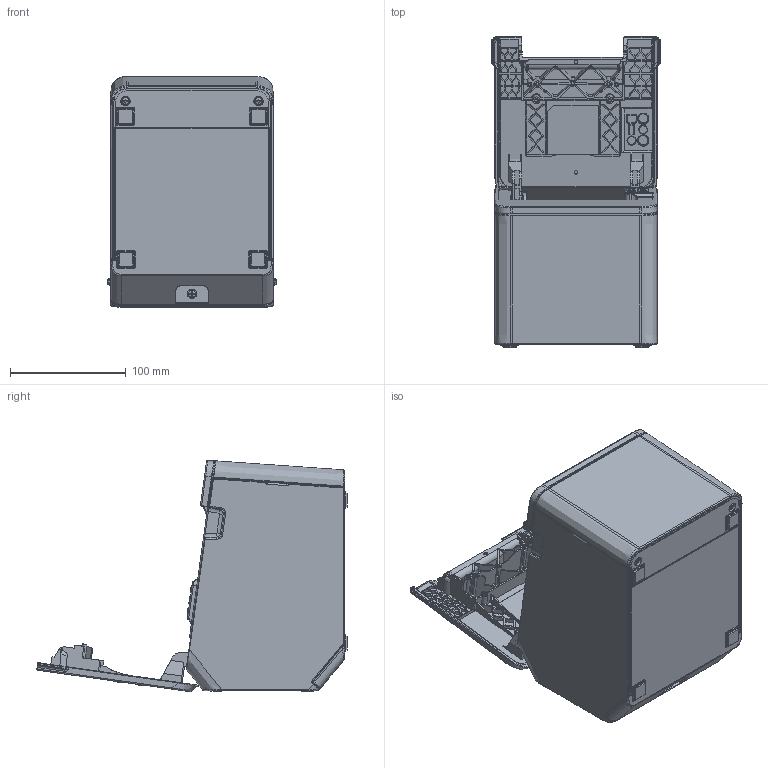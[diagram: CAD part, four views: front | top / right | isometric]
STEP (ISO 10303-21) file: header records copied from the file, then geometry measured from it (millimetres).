
FILE_DESCRIPTION((''),'2;1');
FILE_NAME('TM-T20IV_OPEN','2025-01-15T16:43:10',('5012938'),(''),'CREO PARAMETRIC BY PTC INC, 2022281','CREO PARAMETRIC BY PTC INC, 2022281','');
FILE_SCHEMA(('AUTOMOTIVE_DESIGN { 1 0 10303 214 1 1 1 1 }'));
Products named in the file (1): TM-T20IV_OPEN
Bounding box: 146 x 267.97 x 199.83 mm (x, y, z)
Surface area: 415959.1 mm2 (no closed solid volume)
Topology: 0 solids, 32 shells, 3523 faces, 10173 edges, 6609 vertices
Faces by surface type: plane 2038, cylinder 973, bspline 241, torus 115, cone 107, extrusion 26, sphere 23
Entity records: 149616 total; most frequent: CARTESIAN_POINT 58840, ORIENTED_EDGE 19074, DIRECTION 17883, EDGE_CURVE 10169, VECTOR 6945, LINE 6919, VERTEX_POINT 6609, AXIS2_PLACEMENT_3D 5469
